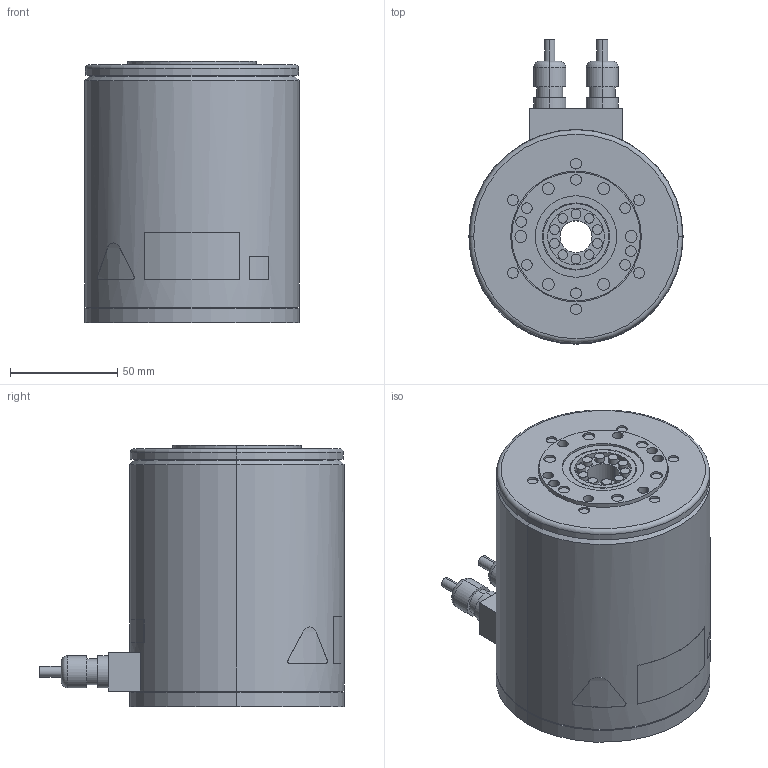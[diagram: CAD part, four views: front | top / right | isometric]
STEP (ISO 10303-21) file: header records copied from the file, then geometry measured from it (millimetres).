
FILE_DESCRIPTION (( 'STEP AP203' ), '1' );
FILE_NAME ('sgm7f_07a_a4_.STEP', '2016-08-03T10:24:16', ( '' ), ( '' ), 'SwSTEP 2.0', 'SolidWorks 2010', '' );
FILE_SCHEMA (( 'CONFIG_CONTROL_DESIGN' ));
Length unit declared in the file: millimetre
Products named in the file (1): sgm7f_07a_a4_
Bounding box: 100 x 142.1 x 122 mm (x, y, z)
Volume: 939614.3 mm3; surface area: 67524.2 mm2
Topology: 1 solids, 1 shells, 227 faces, 468 edges, 308 vertices
Faces by surface type: cylinder 131, plane 81, torus 6, bspline 5, cone 4
Entity records: 6413 total; most frequent: CARTESIAN_POINT 1261, DIRECTION 1182, ORIENTED_EDGE 936, AXIS2_PLACEMENT_3D 507, EDGE_CURVE 468, VERTEX_POINT 308, EDGE_LOOP 294, CIRCLE 284
